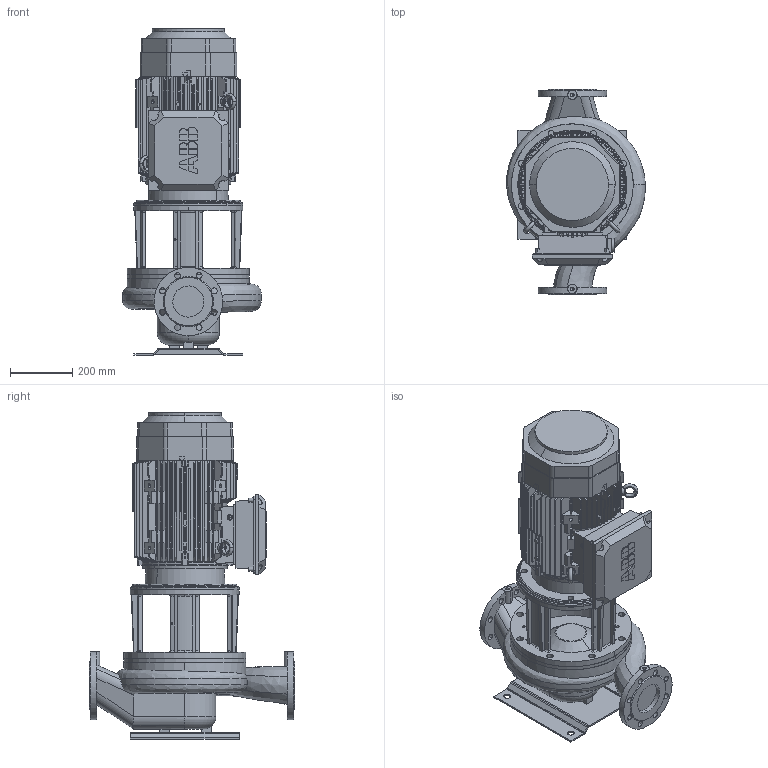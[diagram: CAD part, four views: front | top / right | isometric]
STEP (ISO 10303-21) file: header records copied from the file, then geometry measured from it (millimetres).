
FILE_DESCRIPTION(('STEP AP214'),'1');
FILE_NAME('export.stp','2018-05-30T06:48:59',(' '),(' '),'Spatial InterOp 3D',' ',' ');
FILE_SCHEMA(('AUTOMOTIVE_DESIGN { 1 0 10303 214 1 1 1 1 }'));
Length unit declared in the file: millimetre
Products named in the file (20): W_L100S2SD1850; V_TLL100SAL1202; V_PPL100S; P100496; P100495; P100342; IEC160_FRAME; P100781; IEC-160; -simplified-simplified_parts_Ter; 3GZV244000-310999-294000-299999_; -simplified-simplified_parts_Fan; -simplified-simplified_parts_M2_; -simplified-simplified_parts_Sta; Implementation-HOUSING_Lifting_E; 3GZV183002-193006-183002-183999_; 3GZV311000-999999-324000-324001_
Assembly tree (21 placements, depth 4):
  W_L100S2SD1850
    V_TLL100SAL1202
    V_PPL100S
    P100496
      P100495  x2
      P100342
    IEC160_FRAME
      P100781
      IEC-160
        -simplified-simplified_parts_Ter
        -simplified-simplified_parts_Ter
        3GZV244000-310999-294000-299999_
        -simplified-simplified_parts_Fan
        -simplified-simplified_parts_M2_
        -simplified-simplified_parts_Sta
        Implementation-HOUSING_Lifting_E  x2
        3GZV244000-310999-294000-299999_
        3GZV244000-310999-294000-299999_
        3GZV183002-193006-183002-183999_
        3GZV311000-999999-324000-324001_
Bounding box: 446.59 x 660 x 1050.18 mm (x, y, z)
Volume: 71544329 mm3; surface area: 4332729.9 mm2
Topology: 15 solids, 110 shells, 1604 faces, 4492 edges, 3018 vertices
Faces by surface type: bspline 1230, cylinder 210, plane 96, torus 40, cone 28
Entity records: 86035 total; most frequent: CARTESIAN_POINT 29844, ORIENTED_EDGE 8277, STYLED_ITEM 4531, PRESENTATION_STYLE_ASSIGNMENT 4531, COLOUR_RGB 4531, EDGE_CURVE 4345, CURVE_STYLE 2955, DRAUGHTING_PRE_DEFINED_CURVE_FONT 2955
